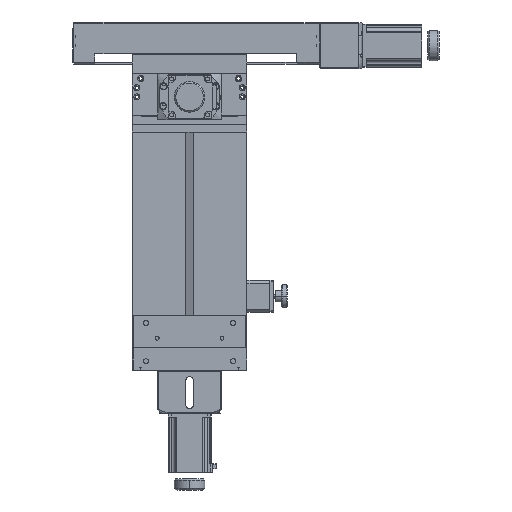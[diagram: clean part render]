
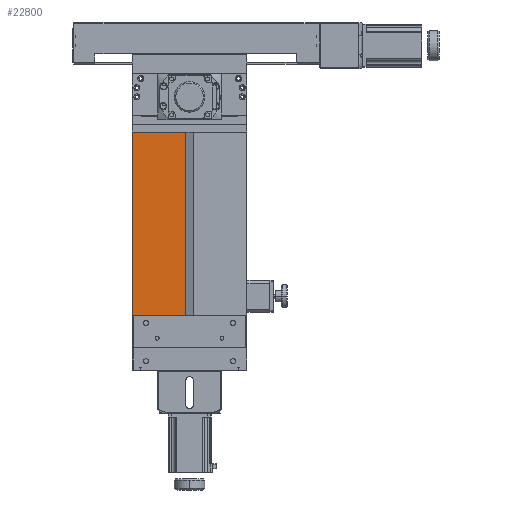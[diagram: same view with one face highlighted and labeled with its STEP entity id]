
A CAD part, left-side view. The second image highlights one B-rep face of the part: STEP entity #22800.
In plain terms, the highlighted planar face has unit normal (-1, 0, 0).
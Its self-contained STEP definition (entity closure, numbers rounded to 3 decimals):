
#2525 = ORIENTED_EDGE ( 'NONE', *, *, #24905, .F. ) ;
#3328 = CARTESIAN_POINT ( 'NONE',  ( 85., 150., -134. ) ) ;
#3797 = VERTEX_POINT ( 'NONE', #25973 ) ;
#4409 = PLANE ( 'NONE',  #13501 ) ;
#4961 = VECTOR ( 'NONE', #29088, 1000. ) ;
#5457 = LINE ( 'NONE', #31234, #35809 ) ;
#7800 = DIRECTION ( 'NONE',  ( 0., -1., 0. ) ) ;
#10256 = DIRECTION ( 'NONE',  ( 1., 0., 0. ) ) ;
#13501 = AXIS2_PLACEMENT_3D ( 'NONE', #30181, #10256, #36047 ) ;
#14222 = CARTESIAN_POINT ( 'NONE',  ( 85., 80., -384. ) ) ;
#14553 = CARTESIAN_POINT ( 'NONE',  ( 85., 80., -144. ) ) ;
#16583 = EDGE_CURVE ( 'NONE', #3797, #32065, #23218, .T. ) ;
#20062 = VECTOR ( 'NONE', #7800, 1000. ) ;
#21174 = VECTOR ( 'NONE', #40232, 1000. ) ;
#21219 = CARTESIAN_POINT ( 'NONE',  ( 85., 80., -144. ) ) ;
#22800 = ADVANCED_FACE ( 'NONE', ( #45345 ), #4409, .F. ) ;
#23218 = LINE ( 'NONE', #3328, #4961 ) ;
#24905 = EDGE_CURVE ( 'NONE', #3797, #26455, #5457, .T. ) ;
#25973 = CARTESIAN_POINT ( 'NONE',  ( 85., 150., -144. ) ) ;
#26455 = VERTEX_POINT ( 'NONE', #21219 ) ;
#28989 = EDGE_CURVE ( 'NONE', #32065, #30014, #45333, .T. ) ;
#29088 = DIRECTION ( 'NONE',  ( 0., 0., -1. ) ) ;
#29358 = EDGE_LOOP ( 'NONE', ( #39078, #2525, #39598, #38368 ) ) ;
#30014 = VERTEX_POINT ( 'NONE', #14222 ) ;
#30181 = CARTESIAN_POINT ( 'NONE',  ( 85., 75., -259. ) ) ;
#31234 = CARTESIAN_POINT ( 'NONE',  ( 85., 150., -144. ) ) ;
#32065 = VERTEX_POINT ( 'NONE', #41948 ) ;
#33596 = CARTESIAN_POINT ( 'NONE',  ( 85., 0., -384. ) ) ;
#34406 = LINE ( 'NONE', #14553, #21174 ) ;
#35809 = VECTOR ( 'NONE', #37099, 1000. ) ;
#35971 = EDGE_CURVE ( 'NONE', #26455, #30014, #34406, .T. ) ;
#36047 = DIRECTION ( 'NONE',  ( 0., -1., 0. ) ) ;
#37099 = DIRECTION ( 'NONE',  ( 0., -1., 0. ) ) ;
#38368 = ORIENTED_EDGE ( 'NONE', *, *, #28989, .T. ) ;
#39078 = ORIENTED_EDGE ( 'NONE', *, *, #35971, .F. ) ;
#39598 = ORIENTED_EDGE ( 'NONE', *, *, #16583, .T. ) ;
#40232 = DIRECTION ( 'NONE',  ( 0., 0., -1. ) ) ;
#41948 = CARTESIAN_POINT ( 'NONE',  ( 85., 150., -384. ) ) ;
#45333 = LINE ( 'NONE', #33596, #20062 ) ;
#45345 = FACE_OUTER_BOUND ( 'NONE', #29358, .T. ) ;
